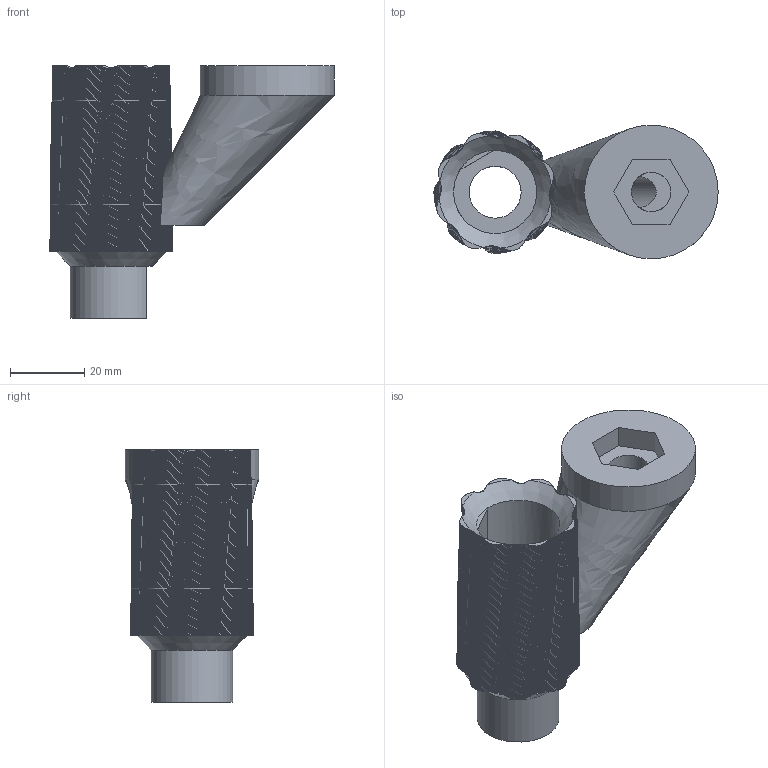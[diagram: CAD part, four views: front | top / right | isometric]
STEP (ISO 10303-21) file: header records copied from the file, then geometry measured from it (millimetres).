
FILE_DESCRIPTION(('Open CASCADE Model'),'2;1');
FILE_NAME('Open CASCADE Shape Model','2026-10-15T23:05:03',('Author'),( 'Open CASCADE'),'Open CASCADE STEP processor 7.9','Open CASCADE 7.9' ,'Unknown');
FILE_SCHEMA(('AUTOMOTIVE_DESIGN { 1 0 10303 214 1 1 1 1 }'));
Length unit declared in the file: millimetre
Products named in the file (1): Open CASCADE STEP translator 7.9 3
Bounding box: 76.5 x 36 x 68 mm (x, y, z)
Volume: 52885.7 mm3; surface area: 17491.1 mm2
Topology: 1 solids, 1 shells, 475 faces, 1381 edges, 908 vertices
Faces by surface type: bspline 427, plane 40, cylinder 6, cone 2
Full cylindrical faces by diameter (mm): 9 x1, 14 x1, 36 x1
Entity records: 37667 total; most frequent: CARTESIAN_POINT 17041, B_SPLINE_CURVE_WITH_KNOTS 2930, ORIENTED_EDGE 2762, PCURVE 2762, DEFINITIONAL_REPRESENTATION 2762, EDGE_CURVE 1381, SURFACE_CURVE 1374, DIRECTION 1351
